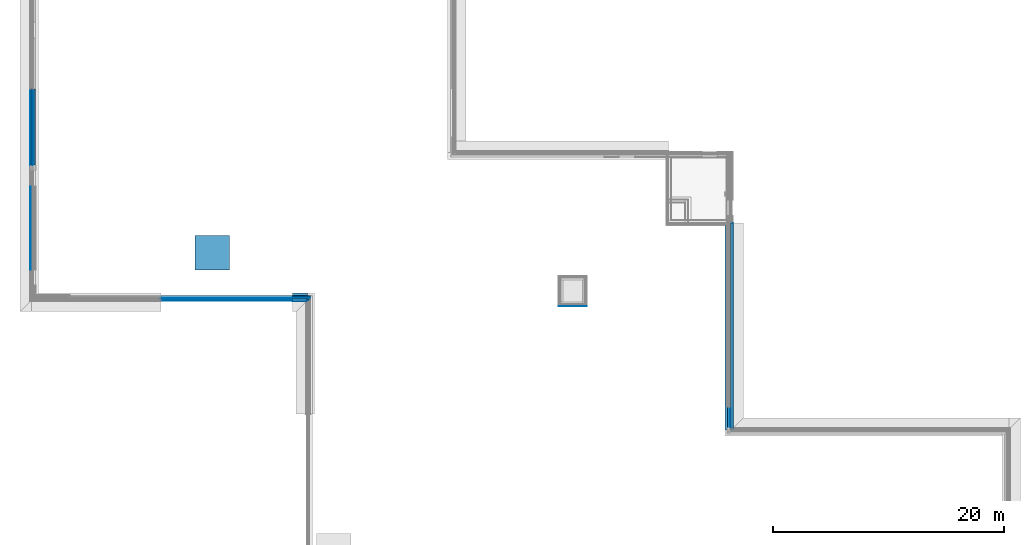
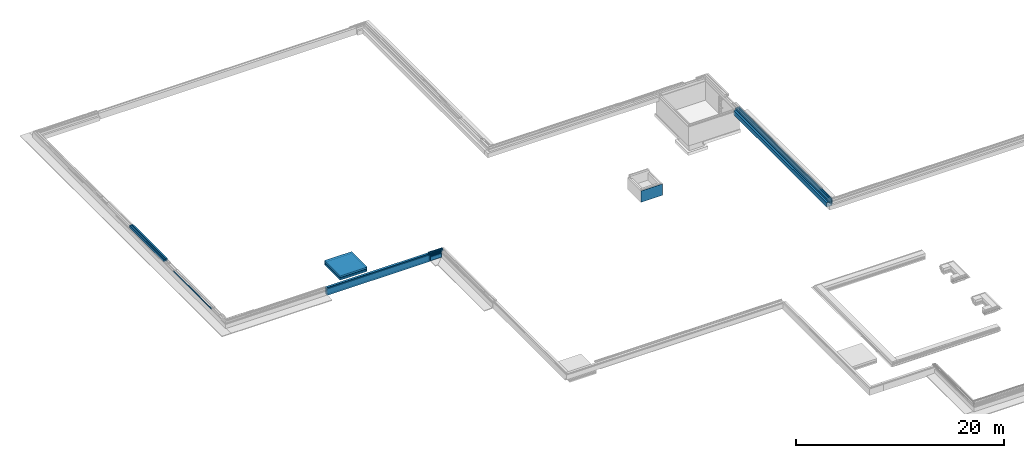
# One storey, part 5 of 17: 40 building element parts, 8 elements without a shape of their own.
"""IFC2X3 building model written with IfcOpenShell, lengths in millimetres."""

from ifc_helpers import new_model, entity, si_unit, converted_unit, derived_unit, money_unit, direction, frame, origin_with_axes, place, context, subcontext, project, spatial, faceted_brep, material, type_object, element, aggregate, save


model = new_model("IFC2X3")

# Units and contexts
model_context = context("Model", 3, precision=0.01, world=origin_with_axes(), true_north=direction((0.0, 1.0)))
body_context = subcontext(model_context, "Body", "Model", "MODEL_VIEW")
ifc_project = project(units=[si_unit("LENGTHUNIT", "METRE", prefix="MILLI"), si_unit("AREAUNIT", "SQUARE_METRE"), si_unit("VOLUMEUNIT", "CUBIC_METRE"), converted_unit("PLANEANGLEUNIT", "DEGREE", entity("IfcPlaneAngleMeasure", 0.0174532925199), si_unit("PLANEANGLEUNIT", "RADIAN"), dimensions=[0, 0, 0, 0, 0, 0, 0]), money_unit("EUR"), converted_unit("TIMEUNIT", "Year", entity("IfcTimeMeasure", 31556926.0), si_unit("TIMEUNIT", "SECOND"), dimensions=[0, 0, 1, 0, 0, 0, 0]), si_unit("MASSUNIT", "GRAM", prefix="KILO"), si_unit("THERMODYNAMICTEMPERATUREUNIT", "DEGREE_CELSIUS"), si_unit("LUMINOUSINTENSITYUNIT", "LUMEN"), si_unit("ENERGYUNIT", "JOULE", prefix="MEGA"), derived_unit("THERMALCONDUCTANCEUNIT", [(si_unit("POWERUNIT", "WATT"), 1), (si_unit("LENGTHUNIT", "METRE"), -1), (si_unit("THERMODYNAMICTEMPERATUREUNIT", "KELVIN"), -1)]), derived_unit("SPECIFICHEATCAPACITYUNIT", [(si_unit("ENERGYUNIT", "JOULE"), 1), (si_unit("MASSUNIT", "GRAM", prefix="KILO"), -1), (si_unit("THERMODYNAMICTEMPERATUREUNIT", "KELVIN"), -1)]), derived_unit("MASSDENSITYUNIT", [(si_unit("MASSUNIT", "GRAM", prefix="KILO"), 1), (si_unit("VOLUMEUNIT", "CUBIC_METRE"), -1)])], contexts=[model_context])

# Site, building, storey
site_placement = place(None, origin_with_axes())
site = spatial("IfcSite", under=ifc_project, at=site_placement, Name="Kolde pst 67a", CompositionType="ELEMENT")
building_placement = place(site_placement, origin_with_axes())
building = spatial("IfcBuilding", under=site, at=building_placement, Name="Riigigümnaasium", CompositionType="ELEMENT")
storey_placement = place(building_placement, frame((0.0, 0.0, -1500.0), z_axis=(0.0, 0.0, 1.0), x_axis=(1.0, 0.0, 0.0)))
storey = spatial("IfcBuildingStorey", under=building, at=storey_placement, Name="Vundament", CompositionType="ELEMENT", Elevation=-1500.0)

# Wall, building element part
wall_type_1 = type_object("IfcWallType", Name="VS-RB-20/3_lintvundament 363", PredefinedType="NOTDEFINED")
wall_1_placement = place(storey_placement, frame((47874.9854607, 47469.9999599, -135.3), z_axis=(0.0, 0.0, 1.0), x_axis=(-1.0, 0.0, 0.0)))
wall_1 = element("IfcWall", 1, at=wall_1_placement, inside=storey, type_object=wall_type_1, Name="Liftišaht")
ifc_material_1 = material(Name="_ALUSKATE - drenaaži- ja kaitsematt geotekstiiliga soojustuse kaitseks, Interplast Iso-Drain 8 Geo või samaväärne")
building_element_part_1_placement = place(wall_1_placement, origin_with_axes())
building_element_part_1 = element("IfcBuildingElementPart", 2, at=building_element_part_1_placement, material=ifc_material_1, Name="_ALUSKATE - drenaaži- ja kaitsematt geotekstiiliga soojustuse kaitseks, Interplast Iso-Drain 8 Geo või samaväärne", context=body_context, shape_type="Brep", body=[
    faceted_brep([(2263.0, 163.0, 1335.1), (-153.0, 163.0, 1335.1), (-153.0, 153.0, 1335.1), (2263.0, 153.0, 1335.1), (2263.0, 163.0, 0.0), (-153.0, 163.0, 0.0), (-153.0, 153.0, 0.0), (2263.0, 153.0, 0.0)], [[[0, 1, 2, 3]], [[4, 5, 1, 0]], [[2, 1, 5, 6]], [[3, 2, 6, 7]], [[3, 7, 4, 0]], [[7, 6, 5, 4]]]),
])
aggregate(wall_1, [building_element_part_1])

# Slab, building element parts
slab_type = type_object("IfcSlabType", Name="PP-RBM-20/1_EPS 100+ betoon, mullakast 500", PredefinedType="NOTDEFINED")
slab_placement = place(storey_placement, frame((14062.000519, 50431.9876282, 390.0), z_axis=(0.0, 0.0, 1.0), x_axis=(1.0, 0.0, 0.0)))
slab = element("IfcSlab", 3, at=slab_placement, inside=storey, type_object=slab_type, Name="Taimekast", PredefinedType="NOTDEFINED")
ifc_material_2 = material(Name="_PEALEVALUKIHT - raudbetoonplaat vastavalt EK osale, kalle trapi suunas 1:80")
building_element_part_2_placement = place(slab_placement, origin_with_axes())
building_element_part_2 = element("IfcBuildingElementPart", 4, at=building_element_part_2_placement, material=ifc_material_2, Name="_PEALEVALUKIHT - raudbetoonplaat vastavalt EK osale, kalle trapi suunas 1:80", context=body_context, shape_type="Brep", body=[
    faceted_brep([(3006.0, 0.0, -200.0), (3006.0, 0.0, 0.0), (0.0, 0.0, 0.0), (0.0, 0.0, -200.0), (3006.0, 3006.0, -200.0), (3006.0, 3006.0, 0.0), (0.0, 3006.0, 0.0), (0.0, 3006.0, -200.0)], [[[0, 1, 2, 3]], [[4, 5, 1, 0]], [[2, 1, 5, 6]], [[3, 2, 6, 7]], [[3, 7, 4, 0]], [[7, 6, 5, 4]]]),
])
ifc_material_3 = material(Name="_HÜDROISOLATSIOON/RADOONITÕKE - eelpaigaldatav elastne hüdroisolatsioonimembraan, värske betooniga nakkuv, radoonitihe, WFP Pre-Tec Membrane Plus või samaväärne")
building_element_part_3_placement = place(slab_placement, origin_with_axes())
building_element_part_3 = element("IfcBuildingElementPart", 5, at=building_element_part_3_placement, material=ifc_material_3, Name="_HÜDROISOLATSIOON/RADOONITÕKE - eelpaigaldatav elastne hüdroisolatsioonimembraan, värske betooniga nakkuv, radoonitihe, WFP Pre-Tec Membrane Plus või samaväärne", context=body_context, shape_type="Brep", body=[
    faceted_brep([(3006.0, 0.0, -200.1), (3006.0, 0.0, -200.0), (0.0, 0.0, -200.0), (0.0, 0.0, -200.1), (3006.0, 3006.0, -200.1), (3006.0, 3006.0, -200.0), (0.0, 3006.0, -200.0), (0.0, 3006.0, -200.1)], [[[0, 1, 2, 3]], [[4, 5, 1, 0]], [[2, 1, 5, 6]], [[3, 2, 6, 7]], [[3, 7, 4, 0]], [[7, 6, 5, 4]]]),
])
ifc_material_4 = material(Name="_SOOJUSTUS - vahtpolüstüreenplaadid EPS 120 Perimeeter, survetugevus min 120kPa, veeimavus <2%, soojuserijuhtivus λD<0,036 W/(mK)")
building_element_part_4_placement = place(slab_placement, origin_with_axes())
building_element_part_4 = element("IfcBuildingElementPart", 6, at=building_element_part_4_placement, material=ifc_material_4, Name="_SOOJUSTUS - vahtpolüstüreenplaadid EPS 120 Perimeeter, survetugevus min 120kPa, veeimavus <2%, soojuserijuhtivus λD<0,036 W/(mK)", context=body_context, shape_type="Brep", body=[
    faceted_brep([(3006.0, 0.0, -300.1), (3006.0, 0.0, -200.1), (0.0, 0.0, -200.1), (0.0, 0.0, -300.1), (3006.0, 3006.0, -300.1), (3006.0, 3006.0, -200.1), (0.0, 3006.0, -200.1), (0.0, 3006.0, -300.1)], [[[0, 1, 2, 3]], [[4, 5, 1, 0]], [[2, 1, 5, 6]], [[3, 2, 6, 7]], [[3, 7, 4, 0]], [[7, 6, 5, 4]]]),
])
ifc_material_5 = material(Name="_TÄIDE - tasandus-/tugevduskiht, pinnasesse tambitud killustik E=80MPa, kiilutud fr 4/16")
building_element_part_5_placement = place(slab_placement, origin_with_axes())
building_element_part_5 = element("IfcBuildingElementPart", 7, at=building_element_part_5_placement, material=ifc_material_5, Name="_TÄIDE - tasandus-/tugevduskiht, pinnasesse tambitud killustik E=80MPa, kiilutud fr 4/16", context=body_context, shape_type="Brep", body=[
    faceted_brep([(3006.0, 0.0, -350.1), (3006.0, 0.0, -300.1), (0.0, 0.0, -300.1), (0.0, 0.0, -350.1), (3006.0, 3006.0, -350.1), (3006.0, 3006.0, -300.1), (0.0, 3006.0, -300.1), (0.0, 3006.0, -350.1)], [[[0, 1, 2, 3]], [[4, 5, 1, 0]], [[2, 1, 5, 6]], [[3, 2, 6, 7]], [[3, 7, 4, 0]], [[7, 6, 5, 4]]]),
])
ifc_material_6 = material(Name="_TÄIDE - tasandus-/tugevduskiht, pinnasesse tambitud killustik E=80MPa, fr 16/32")
building_element_part_6_placement = place(slab_placement, origin_with_axes())
building_element_part_6 = element("IfcBuildingElementPart", 8, at=building_element_part_6_placement, material=ifc_material_6, Name="_TÄIDE - tasandus-/tugevduskiht, pinnasesse tambitud killustik E=80MPa, fr 16/32", context=body_context, shape_type="Brep", body=[
    faceted_brep([(3006.0, 0.0, -500.1), (3006.0, 0.0, -350.1), (0.0, 0.0, -350.1), (0.0, 0.0, -500.1), (3006.0, 3006.0, -500.1), (3006.0, 3006.0, -350.1), (0.0, 3006.0, -350.1), (0.0, 3006.0, -500.1)], [[[0, 1, 2, 3]], [[4, 5, 1, 0]], [[2, 1, 5, 6]], [[3, 2, 6, 7]], [[3, 7, 4, 0]], [[7, 6, 5, 4]]]),
])
ifc_material_7 = material(Name="_PINNAS - tihendatud mineraalne tagasitäide või olemasolev pinnas, tihendusaste 92%, Emax/E1 <2.8 (vastavalt MaaRYL2010 klassile 2)")
building_element_part_7_placement = place(slab_placement, origin_with_axes())
building_element_part_7 = element("IfcBuildingElementPart", 9, at=building_element_part_7_placement, material=ifc_material_7, Name="_PINNAS - tihendatud mineraalne tagasitäide või olemasolev pinnas, tihendusaste 92%, Emax/E1 <2.8 (vastavalt MaaRYL2010 klassile 2)", context=body_context, shape_type="Brep", body=[
    faceted_brep([(0.0, 0.0, -500.2), (3006.0, 0.0, -500.2), (3006.0, 0.0, -500.1), (0.0, 0.0, -500.1), (0.0, 3006.0, -500.2), (3006.0, 3006.0, -500.2), (3006.0, 3006.0, -500.1), (0.0, 3006.0, -500.1)], [[[0, 1, 2, 3]], [[0, 4, 5, 1]], [[1, 5, 6, 2]], [[3, 2, 6, 7]], [[4, 0, 3, 7]], [[5, 4, 7, 6]]]),
])
aggregate(slab, [building_element_part_2, building_element_part_3, building_element_part_4, building_element_part_5, building_element_part_6, building_element_part_7])

# Wall, building element parts
wall_type_2 = type_object("IfcWallType", Name="Lintvundament 1602 x 765", PredefinedType="NOTDEFINED")
wall_2_placement = place(storey_placement, frame((60439.9941222, 36439.9996998, 1479.99999851), z_axis=(0.0, 0.0, 1.0), x_axis=(0.0, 1.0, 0.0)))
wall_2 = element("IfcWall", 10, at=wall_2_placement, inside=storey, type_object=wall_type_2, Name="Vundament")
ifc_material_8 = material(Name="_KANDETARIND - monoliitne raudbetoon vastavalt EK osale")
building_element_part_8_placement = place(wall_2_placement, origin_with_axes())
building_element_part_8 = element("IfcBuildingElementPart", 11, at=building_element_part_8_placement, material=ifc_material_8, Name="_KANDETARIND - monoliitne raudbetoon vastavalt EK osale", context=body_context, shape_type="Brep", body=[
    faceted_brep([(0.0, 200.0, 0.0), (0.0, 0.0, 0.0), (18080.0003586, 0.0, 0.0), (18080.0003586, 200.0, 0.0), (0.0, 200.0, -250.0), (0.0, 0.0, -250.0), (200.057444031, 0.0, -250.0), (18080.0003586, 0.0, -250.0), (18080.0003586, -200.057444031, -250.0), (18080.0003586, -200.057444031, -750.0), (18080.0003586, 399.942555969, -750.0), (18080.0003586, 399.942555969, -250.0), (18080.0003586, 200.0, -250.0), (200.057444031, 200.0, -250.0), (200.057444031, -200.057444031, -250.0), (200.057444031, -200.057444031, -750.0), (200.057444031, 399.942555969, -750.0), (200.057444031, 399.942555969, -250.0)], [[[0, 1, 2, 3]], [[1, 0, 4, 5]], [[1, 5, 6, 7, 2]], [[8, 9, 10, 11, 12, 3, 2, 7]], [[0, 3, 12, 13, 4]], [[6, 5, 4, 13]], [[6, 14, 8, 7]], [[14, 15, 9, 8]], [[15, 16, 10, 9]], [[17, 11, 10, 16]], [[17, 13, 12, 11]], [[14, 6, 13, 17, 16, 15]]]),
])
ifc_material_9 = material(Name="_SOOJUSTUS - ekstrudeeritud polüstüreenist plaadid XPS 250, survetugevus min 250kPa, soojuserijuhtivus λD<0,036 W/(mK), veeimavus alla 0,2%, näiteks XPS 250 foam SL või samaväärne")
building_element_part_9_placement = place(wall_2_placement, origin_with_axes())
building_element_part_9 = element("IfcBuildingElementPart", 12, at=building_element_part_9_placement, material=ifc_material_9, Name="_SOOJUSTUS - ekstrudeeritud polüstüreenist plaadid XPS 250, survetugevus min 250kPa, soojuserijuhtivus λD<0,036 W/(mK), veeimavus alla 0,2%, näiteks XPS 250 foam SL või samaväärne", context=body_context, shape_type="Brep", body=[
    faceted_brep([(73.0000017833, -3.00000241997, -3.76120343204e-06), (73.0000017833, -73.0000017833, -3.76120343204e-06), (18080.0003586, -73.0000017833, -3.76120340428e-06), (18080.0003586, -3.00000241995, -3.7612034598e-06), (73.0000017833, -3.00000241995, -146.999999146), (73.0000017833, -73.0000017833, -146.999999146), (18080.0003586, -73.0000017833, -146.999999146), (18080.0003586, -3.00000241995, -146.999999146)], [[[0, 1, 2, 3]], [[1, 0, 4, 5]], [[1, 5, 6, 2]], [[7, 3, 2, 6]], [[0, 3, 7, 4]], [[4, 7, 6, 5]]]),
])
building_element_part_10_placement = place(wall_2_placement, origin_with_axes())
building_element_part_10 = element("IfcBuildingElementPart", 13, at=building_element_part_10_placement, material=ifc_material_4, Name="_SOOJUSTUS - vahtpolüstüreenplaadid EPS 120 Perimeeter, survetugevus min 120kPa, veeimavus <2%, soojuserijuhtivus λD<0,036 W/(mK)", context=body_context, shape_type="Brep", body=[
    faceted_brep([(223.000000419, -73.0000013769, -2.23078099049e-06), (223.000000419, -223.000000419, -2.23078099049e-06), (18080.0003586, -223.000000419, -2.23078100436e-06), (18080.0003586, -73.0000013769, -2.23078100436e-06), (223.000000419, -73.0000013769, -146.999999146), (223.000000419, -223.000000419, -146.999999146), (18080.0003586, -223.000000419, -146.999999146), (18080.0003586, -73.0000013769, -146.999999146)], [[[0, 1, 2, 3]], [[1, 0, 4, 5]], [[1, 5, 6, 2]], [[3, 2, 6, 7]], [[0, 3, 7, 4]], [[5, 4, 7, 6]]]),
])
building_element_part_11_placement = place(wall_2_placement, origin_with_axes())
building_element_part_11 = element("IfcBuildingElementPart", 14, at=building_element_part_11_placement, material=ifc_material_4, Name="_SOOJUSTUS - vahtpolüstüreenplaadid EPS 120 Perimeeter, survetugevus min 120kPa, veeimavus <2%, soojuserijuhtivus λD<0,036 W/(mK)", context=body_context, shape_type="Brep", body=[
    faceted_brep([(303.057446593, -3.00000241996, -146.99999851), (303.057446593, -303.057446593, -146.99999851), (18080.0003586, -303.057446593, -146.99999851), (18080.0003586, -3.00000241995, -146.99999851), (303.057446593, -303.057446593, -247.000001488), (303.057446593, -3.00000241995, -247.000001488), (18080.0003586, -303.057446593, -247.000001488), (18080.0003586, -3.00000241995, -247.000001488)], [[[0, 1, 2, 3]], [[4, 1, 0, 5]], [[1, 4, 6, 2]], [[6, 7, 3, 2]], [[5, 0, 3, 7]], [[4, 5, 7, 6]]]),
])
ifc_material_10 = material(Name="_HÜDROISOLATSIOON - Bituumenvõõp COMBIFLEX-EL vastavalt TL2 nõuetele")
building_element_part_12_placement = place(wall_2_placement, origin_with_axes())
building_element_part_12 = element("IfcBuildingElementPart", 15, at=building_element_part_12_placement, material=ifc_material_10, Name="_HÜDROISOLATSIOON - Bituumenvõõp COMBIFLEX-EL vastavalt TL2 nõuetele", context=body_context, shape_type="Brep", body=[
    faceted_brep([(2.99999783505, 0.0, -2.35946218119e-06), (2.99999783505, -2.99999783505, -2.35946218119e-06), (18080.0003586, -2.99999783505, -2.35946218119e-06), (18080.0003586, 0.0, 8.81641959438e-06), (2.99999653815, 0.0, -246.999998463), (2.99999653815, -2.99999783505, -246.999998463), (203.057435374, -2.99999783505, -246.999999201), (18080.0003586, -2.99999783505, -246.999999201), (18080.0003586, 0.0, -250.000008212), (18080.0003586, -203.057435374, -246.999999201), (18080.0003586, -203.057435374, -729.999997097), (18080.0003586, -203.057435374, -750.000008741), (18080.0003586, -200.057437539, -750.000008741), (18080.0003586, -200.057437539, -250.000008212), (203.057435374, 0.0, -250.000000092), (203.057435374, 0.0, -246.999999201), (203.057435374, -203.057435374, -246.999999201), (203.057435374, -203.057435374, -729.999997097), (203.057435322, -203.057435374, -750.000008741), (203.057435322, -200.057437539, -750.000008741), (203.057435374, -200.057437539, -729.999997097), (203.057435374, -200.057437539, -250.000000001)], [[[0, 1, 2, 3]], [[1, 0, 4, 5]], [[1, 5, 6, 7, 2]], [[8, 3, 2, 7, 9, 10, 11, 12, 13]], [[0, 3, 8, 14, 15, 4]], [[5, 4, 15, 6]], [[9, 7, 6, 16]], [[10, 9, 16, 17]], [[11, 10, 17, 18]], [[12, 11, 18, 19]], [[20, 21, 13, 12, 19]], [[8, 13, 21, 14]], [[6, 15, 14, 21, 20, 17, 16]], [[17, 20, 19, 18]]]),
])
ifc_material_11 = material(Name="_TUULETÕKE - sokli krohv, silikoonvaikkrohv Weber.pas 481 AquaBalance 1mm \"scratch\" viimistlus, toon helehall CL444 (S 3502-Y) * 35, SILS süsteem, või samaväärne")
building_element_part_13_placement = place(wall_2_placement, origin_with_axes())
building_element_part_13 = element("IfcBuildingElementPart", 16, at=building_element_part_13_placement, material=ifc_material_11, Name="_TUULETÕKE - sokli krohv, silikoonvaikkrohv Weber.pas 481 AquaBalance 1mm \"scratch\" viimistlus, toon helehall CL444 (S 3502-Y) * 35, SILS süsteem, või samaväärne", context=body_context, shape_type="Brep", body=[
    faceted_brep([(233.000001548, -223.000001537, -1.37334278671e-06), (233.000001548, -233.000001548, -1.37334278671e-06), (18080.0003586, -233.000001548, -1.37334277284e-06), (18080.0003586, -223.000001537, -1.37334277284e-06), (233.000002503, -233.000002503, -30.0000036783), (233.000002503, -223.000001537, -30.0000036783), (18080.0003586, -233.000002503, -30.0000036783), (18080.0003586, -233.000001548, -146.999999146), (18080.0003586, -223.000001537, -146.999999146), (233.000001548, -223.000001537, -146.999999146), (233.000001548, -233.000001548, -146.999999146)], [[[0, 1, 2, 3]], [[4, 1, 0, 5]], [[1, 4, 6, 2]], [[6, 7, 8, 3, 2]], [[5, 0, 3, 8, 9]], [[4, 5, 9, 10]], [[6, 4, 10, 7]], [[7, 10, 9, 8]]]),
])
ifc_material_12 = material(Name="_HÜDROISOLATSIOON - tsemendil baseeruv ühekomponentne hüdroisolatsioon hüdroisoleerimiseks sokli krohvi pealt, ülevärvitud silikoonvaikvärviga sokli krohvi tooni, Weber.tec 824 ja Weber.ton 411 AquaBalance toon CL444 (S 3502-Y) * 35 või samaväärne")
building_element_part_14_placement = place(wall_2_placement, origin_with_axes())
building_element_part_14 = element("IfcBuildingElementPart", 17, at=building_element_part_14_placement, material=ifc_material_12, Name="_HÜDROISOLATSIOON - tsemendil baseeruv ühekomponentne hüdroisolatsioon hüdroisoleerimiseks sokli krohvi pealt, ülevärvitud silikoonvaikvärviga sokli krohvi tooni, Weber.tec 824 ja Weber.ton 411 AquaBalance toon CL444 (S 3502-Y) * 35 või samaväärne", context=body_context, shape_type="Brep", body=[
    faceted_brep([(234.99999634, -233.000002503, -29.9999946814), (234.99999634, -234.99999634, -29.9999946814), (18080.0003586, -234.99999634, -29.9999946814), (18080.0003586, -233.000002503, -30.0000036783), (234.99999634, -234.99999634, -146.999993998), (234.99999634, -233.000002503, -146.999993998), (18080.0003586, -234.99999634, -146.999993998), (18080.0003586, -233.000002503, -147.000002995)], [[[0, 1, 2, 3]], [[4, 1, 0, 5]], [[1, 4, 6, 2]], [[7, 3, 2, 6]], [[5, 0, 3, 7]], [[4, 5, 7, 6]]]),
])
building_element_part_15_placement = place(wall_2_placement, origin_with_axes())
building_element_part_15 = element("IfcBuildingElementPart", 18, at=building_element_part_15_placement, material=ifc_material_4, Name="_SOOJUSTUS - vahtpolüstüreenplaadid EPS 120 Perimeeter, survetugevus min 120kPa, veeimavus <2%, soojuserijuhtivus λD<0,036 W/(mK)", context=body_context, shape_type="Brep", body=[
    faceted_brep([(303.057446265, -203.057444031, -246.99999851), (303.057446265, -303.057446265, -246.99999851), (18080.0003586, -303.057446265, -246.99999851), (18080.0003586, -203.057444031, -246.99999851), (303.057446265, -203.057444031, -629.93015656), (303.057446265, -303.057446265, -633.422240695), (18080.0003586, -303.057446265, -633.422240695), (18080.0003586, -203.057444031, -629.930162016)], [[[0, 1, 2, 3]], [[1, 0, 4, 5]], [[1, 5, 6, 2]], [[6, 7, 3, 2]], [[4, 0, 3, 7]], [[5, 4, 7, 6]]]),
])
aggregate(wall_2, [building_element_part_8, building_element_part_9, building_element_part_10, building_element_part_11, building_element_part_12, building_element_part_13, building_element_part_14, building_element_part_15])

wall_type_3 = type_object("IfcWallType", Name="VS-CLT-16/3_sokkel võimla 393", PredefinedType="NOTDEFINED")
wall_3_placement = place(storey_placement, frame((40.0567843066, 66179.7230475, 1480.0), z_axis=(0.0, 0.0, 1.0), x_axis=(0.0, -1.0, 0.0)))
wall_3 = element("IfcWall", 19, at=wall_3_placement, inside=storey, type_object=wall_type_3, Name="Sokkel")
ifc_material_13 = material(Name="_KANDETARIND - CLT ristkihtliimpuit vastavalt EK osale, CLT paigaldusvuugid teibitakse ROTHOBLAAS teibiga")
building_element_part_16_placement = place(wall_3_placement, origin_with_axes())
building_element_part_16 = element("IfcBuildingElementPart", 20, at=building_element_part_16_placement, material=ifc_material_13, Name="_KANDETARIND - CLT ristkihtliimpuit vastavalt EK osale, CLT paigaldusvuugid teibitakse ROTHOBLAAS teibiga", context=body_context, shape_type="Brep", body=[
    faceted_brep([(6629.72508976, 160.0, 0.0), (6629.72508976, 0.0, 0.0), (0.0, 0.0, 0.0), (0.0, 160.0, 0.0), (6629.72508976, 160.0, 300.0), (6629.72508976, 0.0, 300.0), (0.0, 0.0, 300.0), (0.0, 160.0, 300.0)], [[[0, 1, 2, 3]], [[0, 4, 5, 1]], [[1, 5, 6, 2]], [[3, 2, 6, 7]], [[4, 0, 3, 7]], [[5, 4, 7, 6]]]),
])
ifc_material_14 = material(Name="_HÜDROISOLATSIOON - 3x SBS rullmaterjal vastavalt TL2 nõuetele, nakke tugevduseks betoonpind eelnevalt katta hüdroisolatsiooni bituumenvõõbaga")
building_element_part_17_placement = place(wall_3_placement, origin_with_axes())
building_element_part_17 = element("IfcBuildingElementPart", 21, at=building_element_part_17_placement, material=ifc_material_14, Name="_HÜDROISOLATSIOON - 3x SBS rullmaterjal vastavalt TL2 nõuetele, nakke tugevduseks betoonpind eelnevalt katta hüdroisolatsiooni bituumenvõõbaga", context=body_context, shape_type="Brep", body=[
    faceted_brep([(6629.72508976, 0.0, 0.0), (6629.72508976, -3.0, 0.0), (0.0, -3.0, 0.0), (0.0, 0.0, 0.0), (6629.72508976, 0.0, 300.0), (6629.72508976, -3.0, 300.0), (0.0, -3.0, 300.0), (0.0, 0.0, 300.0)], [[[0, 1, 2, 3]], [[0, 4, 5, 1]], [[1, 5, 6, 2]], [[3, 2, 6, 7]], [[4, 0, 3, 7]], [[5, 4, 7, 6]]]),
])
ifc_material_15 = material(Name="_SOOJUSTUS - ekstrudeeritud polüstüreenist plaadid XPS 250, soojuserijuhtivus lambdaD=0,035 W/mK, veeimavus alla 2%, näiteks Styrofoam 250 SL-A-N  või samaväärne, plaatide vuugid omavahel nihutada")
building_element_part_18_placement = place(wall_3_placement, origin_with_axes())
building_element_part_18 = element("IfcBuildingElementPart", 22, at=building_element_part_18_placement, material=ifc_material_15, Name="_SOOJUSTUS - ekstrudeeritud polüstüreenist plaadid XPS 250, soojuserijuhtivus lambdaD=0,035 W/mK, veeimavus alla 2%, näiteks Styrofoam 250 SL-A-N  või samaväärne, plaatide vuugid omavahel nihutada", context=body_context, shape_type="Brep", body=[
    faceted_brep([(6629.72508976, -3.0, 0.0), (6629.72508976, -73.0, 0.0), (0.0, -73.0, 0.0), (0.0, -3.0, 0.0), (6629.72508976, -3.0, 300.0), (6629.72508976, -73.0, 300.0), (0.0, -73.0, 300.0), (0.0, -3.0, 300.0)], [[[0, 1, 2, 3]], [[0, 4, 5, 1]], [[1, 5, 6, 2]], [[3, 2, 6, 7]], [[4, 0, 3, 7]], [[5, 4, 7, 6]]]),
])
building_element_part_19_placement = place(wall_3_placement, origin_with_axes())
building_element_part_19 = element("IfcBuildingElementPart", 23, at=building_element_part_19_placement, material=ifc_material_4, Name="_SOOJUSTUS - vahtpolüstüreenplaadid EPS 120 Perimeeter, survetugevus min 120kPa, veeimavus <2%, soojuserijuhtivus λD<0,036 W/(mK)", context=body_context, shape_type="Brep", body=[
    faceted_brep([(6629.72508976, -73.0, 0.0), (6629.72508976, -223.0, 0.0), (0.0, -223.0, 0.0), (0.0, -73.0, 0.0), (6629.72508976, -73.0, 300.0), (6629.72508976, -223.0, 300.0), (0.0, -223.0, 300.0), (0.0, -73.0, 300.0)], [[[0, 1, 2, 3]], [[0, 4, 5, 1]], [[1, 5, 6, 2]], [[3, 2, 6, 7]], [[4, 0, 3, 7]], [[5, 4, 7, 6]]]),
])
building_element_part_20_placement = place(wall_3_placement, origin_with_axes())
building_element_part_20 = element("IfcBuildingElementPart", 24, at=building_element_part_20_placement, material=ifc_material_11, Name="_TUULETÕKE - sokli krohv, silikoonvaikkrohv Weber.pas 481 AquaBalance 1mm \"scratch\" viimistlus, toon helehall CL444 (S 3502-Y) * 35, SILS süsteem, või samaväärne", context=body_context, shape_type="Brep", body=[
    faceted_brep([(6629.72508976, -223.0, 0.0), (6629.72508976, -233.0, 0.0), (0.0, -233.0, 0.0), (0.0, -223.0, 0.0), (6629.72508976, -223.0, 300.0), (6629.72508976, -233.0, 300.0), (0.0, -233.0, 300.0), (0.0, -223.0, 300.0)], [[[0, 1, 2, 3]], [[0, 4, 5, 1]], [[1, 5, 6, 2]], [[3, 2, 6, 7]], [[4, 0, 3, 7]], [[5, 4, 7, 6]]]),
])
aggregate(wall_3, [building_element_part_16, building_element_part_17, building_element_part_18, building_element_part_19, building_element_part_20])

# Wall, building element part
wall_type_4 = type_object("IfcWallType", Name="VS-RB-20/2_sokkel  443", PredefinedType="NOTDEFINED")
wall_4_placement = place(storey_placement, frame((40.0568180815, 57672.0053224, 1480.0), z_axis=(0.0, 0.0, 1.0), x_axis=(0.0, -1.0, 0.0)))
wall_4 = element("IfcWall", 25, at=wall_4_placement, inside=storey, type_object=wall_type_4, Name="Sokkel")
building_element_part_21_placement = place(wall_4_placement, origin_with_axes())
building_element_part_21 = element("IfcBuildingElementPart", 26, at=building_element_part_21_placement, material=ifc_material_11, Name="_TUULETÕKE - sokli krohv, silikoonvaikkrohv Weber.pas 481 AquaBalance 1mm \"scratch\" viimistlus, toon helehall CL444 (S 3502-Y) * 35, SILS süsteem, või samaväärne", context=body_context, shape_type="Brep", body=[
    faceted_brep([(7190.71404711, -223.0, 0.0), (7190.71404711, -233.0, 0.0), (0.0, -233.0, 0.0), (0.0, -223.0, 0.0), (7190.71404711, -223.0, 120.0), (7190.71404711, -233.0, 120.0), (0.0, -233.0, 120.0), (0.0, -223.0, 120.0)], [[[0, 1, 2, 3]], [[0, 4, 5, 1]], [[1, 5, 6, 2]], [[3, 2, 6, 7]], [[4, 0, 3, 7]], [[5, 4, 7, 6]]]),
])
aggregate(wall_4, [building_element_part_21])

# Wall, building element parts
wall_5_placement = place(storey_placement, frame((22528.6213592, 48039.7660528, 1480.0), z_axis=(0.0, 0.0, 1.0), x_axis=(0.999999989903, 0.000142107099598, 0.0)))
wall_5 = element("IfcWall", 27, at=wall_5_placement, inside=storey, type_object=wall_type_3, Name="Sokkel")
building_element_part_22_placement = place(wall_5_placement, origin_with_axes())
building_element_part_22 = element("IfcBuildingElementPart", 28, at=building_element_part_22_placement, material=ifc_material_13, Name="_KANDETARIND - CLT ristkihtliimpuit vastavalt EK osale, CLT paigaldusvuugid teibitakse ROTHOBLAAS teibiga", context=body_context, shape_type="Brep", body=[
    faceted_brep([(1511.38139022, 0.0, 0.0), (0.0, 0.0, 0.0), (0.0, 160.0, 0.0), (1511.40412849, 160.0, 0.0), (1511.38139022, 0.0, 120.0), (0.0, 0.0, 120.0), (0.0, 160.0, 120.0), (1511.40412849, 160.0, 120.0)], [[[0, 1, 2, 3]], [[4, 5, 1, 0]], [[2, 1, 5, 6]], [[3, 2, 6, 7]], [[3, 7, 4, 0]], [[7, 6, 5, 4]]]),
])
building_element_part_23_placement = place(wall_5_placement, origin_with_axes())
building_element_part_23 = element("IfcBuildingElementPart", 29, at=building_element_part_23_placement, material=ifc_material_14, Name="_HÜDROISOLATSIOON - 3x SBS rullmaterjal vastavalt TL2 nõuetele, nakke tugevduseks betoonpind eelnevalt katta hüdroisolatsiooni bituumenvõõbaga", context=body_context, shape_type="Brep", body=[
    faceted_brep([(1511.38096388, -3.0, 0.0), (0.0, -3.00000000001, 0.0), (0.0, 0.0, 0.0), (1511.38139022, 0.0, 0.0), (1511.38096388, -3.0, 120.0), (0.0, -3.00000000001, 120.0), (0.0, 0.0, 120.0), (1511.38139022, 0.0, 120.0)], [[[0, 1, 2, 3]], [[4, 5, 1, 0]], [[2, 1, 5, 6]], [[3, 2, 6, 7]], [[3, 7, 4, 0]], [[7, 6, 5, 4]]]),
])
building_element_part_24_placement = place(wall_5_placement, origin_with_axes())
building_element_part_24 = element("IfcBuildingElementPart", 30, at=building_element_part_24_placement, material=ifc_material_15, Name="_SOOJUSTUS - ekstrudeeritud polüstüreenist plaadid XPS 250, soojuserijuhtivus lambdaD=0,035 W/mK, veeimavus alla 2%, näiteks Styrofoam 250 SL-A-N  või samaväärne, plaatide vuugid omavahel nihutada", context=body_context, shape_type="Brep", body=[
    faceted_brep([(1508.37101585, -73.0, 0.0), (0.0, -73.0, 0.0), (0.0, -3.00000000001, 0.0), (1508.38096385, -3.0, 0.0), (1508.37101585, -73.0, 120.0), (0.0, -73.0, 120.0), (0.0, -3.00000000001, 120.0), (1508.38096385, -3.0, 120.0)], [[[0, 1, 2, 3]], [[4, 5, 1, 0]], [[2, 1, 5, 6]], [[3, 2, 6, 7]], [[3, 7, 4, 0]], [[7, 6, 5, 4]]]),
])
building_element_part_25_placement = place(wall_5_placement, origin_with_axes())
building_element_part_25 = element("IfcBuildingElementPart", 31, at=building_element_part_25_placement, material=ifc_material_4, Name="_SOOJUSTUS - vahtpolüstüreenplaadid EPS 120 Perimeeter, survetugevus min 120kPa, veeimavus <2%, soojuserijuhtivus λD<0,036 W/(mK)", context=body_context, shape_type="Brep", body=[
    faceted_brep([(1438.34969802, -223.0, 0.0), (0.0, -223.0, 0.0), (0.0, -73.0, 0.0), (1438.37101515, -73.0, 0.0), (1438.34969802, -223.0, 120.0), (0.0, -223.0, 120.0), (0.0, -73.0, 120.0), (1438.37101515, -73.0, 120.0)], [[[0, 1, 2, 3]], [[4, 5, 1, 0]], [[2, 1, 5, 6]], [[3, 2, 6, 7]], [[3, 7, 4, 0]], [[7, 6, 5, 4]]]),
])
building_element_part_26_placement = place(wall_5_placement, origin_with_axes())
building_element_part_26 = element("IfcBuildingElementPart", 32, at=building_element_part_26_placement, material=ifc_material_11, Name="_TUULETÕKE - sokli krohv, silikoonvaikkrohv Weber.pas 481 AquaBalance 1mm \"scratch\" viimistlus, toon helehall CL444 (S 3502-Y) * 35, SILS süsteem, või samaväärne", context=body_context, shape_type="Brep", body=[
    faceted_brep([(1288.34827536, -233.0, 0.0), (0.0, -233.0, 0.0), (0.0, -223.0, 0.0), (1288.34969651, -223.0, 0.0), (1288.34827536, -233.0, 120.0), (0.0, -233.0, 120.0), (0.0, -223.0, 120.0), (1288.34969651, -223.0, 120.0)], [[[0, 1, 2, 3]], [[4, 5, 1, 0]], [[2, 1, 5, 6]], [[3, 2, 6, 7]], [[3, 7, 4, 0]], [[7, 6, 5, 4]]]),
])
aggregate(wall_5, [building_element_part_22, building_element_part_23, building_element_part_24, building_element_part_25, building_element_part_26])

wall_type_5 = type_object("IfcWallType", Name="VS-RB-25/3_lintvundament klaasfassaad 433", PredefinedType="NOTDEFINED")
wall_6_placement = place(storey_placement, frame((11108.5949525, 47806.9808308, 729.999997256), z_axis=(0.0, 0.0, 1.0), x_axis=(1.0, 0.0, 0.0)))
wall_6 = element("IfcWall", 33, at=wall_6_placement, inside=storey, type_object=wall_type_5, Name="Vundament")
building_element_part_27_placement = place(wall_6_placement, origin_with_axes())
building_element_part_27 = element("IfcBuildingElementPart", 34, at=building_element_part_27_placement, material=ifc_material_8, Name="_KANDETARIND - monoliitne raudbetoon vastavalt EK osale", context=body_context, shape_type="Brep", body=[
    faceted_brep([(11420.0264083, 433.000000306, 0.0), (11420.0264084, 183.000000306, 0.0), (-4.91162666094e-09, 183.0, 0.0), (-1.16209264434e-08, 433.0, 0.0), (11420.0264083, 433.000000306, 770.000002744), (11420.0264084, 183.000000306, 770.000002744), (-4.91162666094e-09, 183.0, 770.000002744), (-1.16209264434e-08, 433.0, 770.000002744)], [[[0, 1, 2, 3]], [[0, 4, 5, 1]], [[1, 5, 6, 2]], [[3, 2, 6, 7]], [[4, 0, 3, 7]], [[5, 4, 7, 6]]]),
])
building_element_part_28_placement = place(wall_6_placement, origin_with_axes())
building_element_part_28 = element("IfcBuildingElementPart", 35, at=building_element_part_28_placement, material=ifc_material_10, Name="_HÜDROISOLATSIOON - Bituumenvõõp COMBIFLEX-EL vastavalt TL2 nõuetele", context=body_context, shape_type="Brep", body=[
    faceted_brep([(11420.0264084, 183.000000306, 0.0), (11420.0264084, 180.000000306, 0.0), (-4.83169060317e-09, 180.0, 0.0), (-4.91162666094e-09, 183.0, 0.0), (11420.0264084, 183.000000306, 770.000002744), (11420.0264084, 180.000000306, 770.000002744), (-4.83169060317e-09, 180.0, 770.000002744), (-4.91162666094e-09, 183.0, 770.000002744)], [[[0, 1, 2, 3]], [[0, 4, 5, 1]], [[1, 5, 6, 2]], [[3, 2, 6, 7]], [[4, 0, 3, 7]], [[5, 4, 7, 6]]]),
])
building_element_part_29_placement = place(wall_6_placement, origin_with_axes())
building_element_part_29 = element("IfcBuildingElementPart", 36, at=building_element_part_29_placement, material=ifc_material_9, Name="_SOOJUSTUS - ekstrudeeritud polüstüreenist plaadid XPS 250, survetugevus min 250kPa, soojuserijuhtivus λD<0,036 W/(mK), veeimavus alla 0,2%, näiteks XPS 250 foam SL või samaväärne", context=body_context, shape_type="Brep", body=[
    faceted_brep([(11420.0264084, 180.000000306, 0.0), (11420.0264084, 110.000000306, 0.0), (-2.95230506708e-09, 110.0, 0.0), (-4.83169060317e-09, 180.0, 0.0), (11420.0264084, 180.000000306, 770.000002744), (11420.0264084, 110.000000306, 770.000002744), (-2.95230506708e-09, 110.0, 770.000002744), (-4.83169060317e-09, 180.0, 770.000002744)], [[[0, 1, 2, 3]], [[0, 4, 5, 1]], [[1, 5, 6, 2]], [[3, 2, 6, 7]], [[4, 0, 3, 7]], [[5, 4, 7, 6]]]),
])
building_element_part_30_placement = place(wall_6_placement, origin_with_axes())
building_element_part_30 = element("IfcBuildingElementPart", 37, at=building_element_part_30_placement, material=ifc_material_4, Name="_SOOJUSTUS - vahtpolüstüreenplaadid EPS 120 Perimeeter, survetugevus min 120kPa, veeimavus <2%, soojuserijuhtivus λD<0,036 W/(mK)", context=body_context, shape_type="Brep", body=[
    faceted_brep([(11420.0264084, 110.000000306, 0.0), (11420.0264084, 10.0000003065, 0.0), (-2.68229882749e-10, 10.0, 0.0), (-2.95230506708e-09, 110.0, 0.0), (11420.0264084, 110.000000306, 770.000002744), (11420.0264084, 10.0000003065, 770.000002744), (-2.68229882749e-10, 10.0, 770.000002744), (-2.95230506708e-09, 110.0, 770.000002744)], [[[0, 1, 2, 3]], [[0, 4, 5, 1]], [[1, 5, 6, 2]], [[3, 2, 6, 7]], [[4, 0, 3, 7]], [[5, 4, 7, 6]]]),
])
building_element_part_31_placement = place(wall_6_placement, origin_with_axes())
building_element_part_31 = element("IfcBuildingElementPart", 38, at=building_element_part_31_placement, material=ifc_material_11, Name="_TUULETÕKE - sokli krohv, silikoonvaikkrohv Weber.pas 481 AquaBalance 1mm \"scratch\" viimistlus, toon helehall CL444 (S 3502-Y) * 35, SILS süsteem, või samaväärne", context=body_context, shape_type="Brep", body=[
    faceted_brep([(11420.0264084, 10.0000003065, 0.0), (11420.0264084, 3.06485503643e-07, 0.0), (0.0, 0.0, 0.0), (-2.68229882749e-10, 10.0, 0.0), (11420.0264084, 10.0000003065, 770.000002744), (11420.0264084, 3.06485503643e-07, 770.000002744), (0.0, 0.0, 770.000002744), (-2.68229882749e-10, 10.0, 770.000002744)], [[[0, 1, 2, 3]], [[0, 4, 5, 1]], [[1, 5, 6, 2]], [[3, 2, 6, 7]], [[4, 0, 3, 7]], [[5, 4, 7, 6]]]),
])
aggregate(wall_6, [building_element_part_27, building_element_part_28, building_element_part_29, building_element_part_30, building_element_part_31])

wall_7_placement = place(storey_placement, frame((22528.6213609, 48039.9808309, 1479.99999851), z_axis=(0.0, 0.0, 1.0), x_axis=(1.0, 0.0, 0.0)))
wall_7 = element("IfcWall", 39, at=wall_7_placement, inside=storey, type_object=wall_type_2, Name="Vundament")
building_element_part_32_placement = place(wall_7_placement, origin_with_axes())
building_element_part_32 = element("IfcBuildingElementPart", 40, at=building_element_part_32_placement, material=ifc_material_8, Name="_KANDETARIND - monoliitne raudbetoon vastavalt EK osale", context=body_context, shape_type="Brep", body=[
    faceted_brep([(1511.38137327, 8.36024582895e-08, 0.0), (1511.38137326, 200.000000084, 0.0), (-1.10631503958e-08, 200.0, 0.0), (0.0, 0.0, 0.0), (1511.38137327, 8.36024582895e-08, -250.0), (1511.38137326, 200.000000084, -250.0), (1311.32392923, 200.000000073, -250.0), (-1.10631503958e-08, 200.0, -250.0), (-2.21227480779e-08, 399.942555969, -250.0), (-2.21227480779e-08, 399.942555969, -750.0), (1.10667031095e-08, -200.057444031, -750.0), (1.10667031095e-08, -200.057444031, -250.0), (0.0, 0.0, -250.0), (1311.32392924, 7.25322024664e-08, -250.0), (1311.32392922, 399.942556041, -250.0), (1311.32392922, 399.942556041, -750.0), (1311.32392925, -200.057443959, -750.0), (1311.32392925, -200.057443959, -250.0)], [[[0, 1, 2, 3]], [[1, 0, 4, 5]], [[1, 5, 6, 7, 2]], [[7, 8, 9, 10, 11, 12, 3, 2]], [[0, 3, 12, 13, 4]], [[6, 5, 4, 13]], [[6, 14, 8, 7]], [[14, 15, 9, 8]], [[15, 16, 10, 9]], [[17, 11, 10, 16]], [[17, 13, 12, 11]], [[14, 6, 13, 17, 16, 15]]]),
])
building_element_part_33_placement = place(wall_7_placement, origin_with_axes())
building_element_part_33 = element("IfcBuildingElementPart", 41, at=building_element_part_33_placement, material=ifc_material_9, Name="_SOOJUSTUS - ekstrudeeritud polüstüreenist plaadid XPS 250, survetugevus min 250kPa, soojuserijuhtivus λD<0,036 W/(mK), veeimavus alla 0,2%, näiteks XPS 250 foam SL või samaväärne", context=body_context, shape_type="Brep", body=[
    faceted_brep([(1438.38137149, -73.0000017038, -3.76120343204e-06), (1438.38137149, -3.00000234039, -3.76120343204e-06), (1.66977542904e-10, -3.00000241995, -3.7612034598e-06), (4.0394354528e-09, -73.0000017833, -3.76120340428e-06), (1438.38137149, -73.0000017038, -146.999999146), (1438.38137149, -3.00000234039, -146.999999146), (1.66977542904e-10, -3.00000241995, -146.999999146), (4.0394354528e-09, -73.0000017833, -146.999999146)], [[[0, 1, 2, 3]], [[1, 0, 4, 5]], [[1, 5, 6, 2]], [[7, 3, 2, 6]], [[0, 3, 7, 4]], [[5, 4, 7, 6]]]),
])
building_element_part_34_placement = place(wall_7_placement, origin_with_axes())
building_element_part_34 = element("IfcBuildingElementPart", 42, at=building_element_part_34_placement, material=ifc_material_4, Name="_SOOJUSTUS - vahtpolüstüreenplaadid EPS 120 Perimeeter, survetugevus min 120kPa, veeimavus <2%, soojuserijuhtivus λD<0,036 W/(mK)", context=body_context, shape_type="Brep", body=[
    faceted_brep([(1288.38137286, -223.000000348, -2.23078099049e-06), (1288.38137285, -73.0000013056, -2.23078099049e-06), (4.0394354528e-09, -73.0000013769, -2.23078100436e-06), (1.23350218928e-08, -223.000000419, -2.23078100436e-06), (1288.38137286, -223.000000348, -146.999999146), (1288.38137285, -73.0000013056, -146.999999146), (4.0394354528e-09, -73.0000013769, -146.999999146), (1.23350218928e-08, -223.000000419, -146.999999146)], [[[0, 1, 2, 3]], [[1, 0, 4, 5]], [[1, 5, 6, 2]], [[3, 2, 6, 7]], [[0, 3, 7, 4]], [[5, 4, 7, 6]]]),
])
building_element_part_35_placement = place(wall_7_placement, origin_with_axes())
building_element_part_35 = element("IfcBuildingElementPart", 43, at=building_element_part_35_placement, material=ifc_material_4, Name="_SOOJUSTUS - vahtpolüstüreenplaadid EPS 120 Perimeeter, survetugevus min 120kPa, veeimavus <2%, soojuserijuhtivus λD<0,036 W/(mK)", context=body_context, shape_type="Brep", body=[
    faceted_brep([(1208.32392669, -303.057446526, -146.99999851), (1208.32392668, -3.00000235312, -146.99999851), (1.66977542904e-10, -3.00000241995, -146.99999851), (1.67652558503e-08, -303.057446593, -146.99999851), (1208.32392668, -3.00000235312, -247.000001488), (1208.32392669, -303.057446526, -247.000001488), (1.66977542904e-10, -3.00000241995, -247.000001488), (1.67652558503e-08, -303.057446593, -247.000001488)], [[[0, 1, 2, 3]], [[4, 1, 0, 5]], [[1, 4, 6, 2]], [[7, 3, 2, 6]], [[5, 0, 3, 7]], [[4, 5, 7, 6]]]),
])
building_element_part_36_placement = place(wall_7_placement, origin_with_axes())
building_element_part_36 = element("IfcBuildingElementPart", 44, at=building_element_part_36_placement, material=ifc_material_10, Name="_HÜDROISOLATSIOON - Bituumenvõõp COMBIFLEX-EL vastavalt TL2 nõuetele", context=body_context, shape_type="Brep", body=[
    faceted_brep([(1508.38137543, -2.99999775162, -2.35946218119e-06), (1508.38137543, 8.34390334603e-08, -2.35946218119e-06), (0.0, 0.0, 8.81641959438e-06), (1.66977542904e-10, -2.99999783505, -2.35946218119e-06), (1508.38137673, -2.99999775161, -246.999998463), (1508.38137673, 8.34390334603e-08, -246.999998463), (1308.3239379, 7.23758830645e-08, -246.999999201), (1308.3239379, 7.23758830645e-08, -250.000001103), (0.0, 0.0, -250.000008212), (1.66977542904e-10, -2.99999783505, -246.999999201), (1.10667031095e-08, -200.057437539, -250.000008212), (1.10667031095e-08, -200.057437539, -750.000008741), (1.12336806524e-08, -203.057435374, -750.000008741), (1.12336806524e-08, -203.057435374, -729.999997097), (1.12336806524e-08, -203.057435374, -246.999999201), (1308.3239379, -2.99999776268, -246.999999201), (1308.32393791, -200.057437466, -250.000000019), (1308.32393791, -203.057435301, -246.999999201), (1308.32393791, -203.057435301, -729.999997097), (1308.32393791, -200.057437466, -729.999997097), (1308.32393796, -200.057437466, -750.000008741), (1308.32393796, -203.057435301, -750.000008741)], [[[0, 1, 2, 3]], [[1, 0, 4, 5]], [[1, 5, 6, 7, 8, 2]], [[9, 3, 2, 8, 10, 11, 12, 13, 14]], [[0, 3, 9, 15, 4]], [[5, 4, 15, 6]], [[16, 7, 6, 15, 17, 18, 19]], [[7, 16, 10, 8]], [[16, 19, 20, 11, 10]], [[20, 21, 12, 11]], [[21, 18, 13, 12]], [[17, 14, 13, 18]], [[17, 15, 9, 14]], [[19, 18, 21, 20]]]),
])
building_element_part_37_placement = place(wall_7_placement, origin_with_axes())
building_element_part_37 = element("IfcBuildingElementPart", 45, at=building_element_part_37_placement, material=ifc_material_11, Name="_TUULETÕKE - sokli krohv, silikoonvaikkrohv Weber.pas 481 AquaBalance 1mm \"scratch\" viimistlus, toon helehall CL444 (S 3502-Y) * 35, SILS süsteem, või samaväärne", context=body_context, shape_type="Brep", body=[
    faceted_brep([(1278.38137173, -233.000001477, -1.37334278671e-06), (1278.38137173, -223.000001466, -1.37334278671e-06), (1.23350218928e-08, -223.000001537, -1.37334277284e-06), (1.28892452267e-08, -233.000001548, -1.37334277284e-06), (1278.38137078, -223.000001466, -30.0000036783), (1278.38137078, -233.000002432, -30.0000036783), (1278.38137173, -223.000001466, -146.999999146), (1.23350218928e-08, -223.000001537, -146.999999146), (1.28892452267e-08, -233.000002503, -30.0000036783), (1.28892452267e-08, -233.000001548, -146.999999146), (1278.38137173, -233.000001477, -146.999999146)], [[[0, 1, 2, 3]], [[4, 1, 0, 5]], [[1, 4, 6, 7, 2]], [[8, 3, 2, 7, 9]], [[5, 0, 3, 8]], [[4, 5, 10, 6]], [[6, 10, 9, 7]], [[10, 5, 8, 9]]]),
])
building_element_part_38_placement = place(wall_7_placement, origin_with_axes())
building_element_part_38 = element("IfcBuildingElementPart", 46, at=building_element_part_38_placement, material=ifc_material_12, Name="_HÜDROISOLATSIOON - tsemendil baseeruv ühekomponentne hüdroisolatsioon hüdroisoleerimiseks sokli krohvi pealt, ülevärvitud silikoonvaikvärviga sokli krohvi tooni, Weber.tec 824 ja Weber.ton 411 AquaBalance toon CL444 (S 3502-Y) * 35 või samaväärne", context=body_context, shape_type="Brep", body=[
    faceted_brep([(1276.38137694, -234.999996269, -29.9999946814), (1276.38137694, -233.000002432, -29.9999946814), (1.28892452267e-08, -233.000002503, -30.0000036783), (1.29993793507e-08, -234.99999634, -29.9999946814), (1276.38137694, -233.000002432, -146.999993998), (1276.38137694, -234.999996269, -146.999993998), (1.28892452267e-08, -233.000002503, -147.000002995), (1.29993793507e-08, -234.99999634, -146.999993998)], [[[0, 1, 2, 3]], [[4, 1, 0, 5]], [[1, 4, 6, 2]], [[7, 3, 2, 6]], [[5, 0, 3, 7]], [[4, 5, 7, 6]]]),
])
building_element_part_39_placement = place(wall_7_placement, origin_with_axes())
building_element_part_39 = element("IfcBuildingElementPart", 47, at=building_element_part_39_placement, material=ifc_material_4, Name="_SOOJUSTUS - vahtpolüstüreenplaadid EPS 120 Perimeeter, survetugevus min 120kPa, veeimavus <2%, soojuserijuhtivus λD<0,036 W/(mK)", context=body_context, shape_type="Brep", body=[
    faceted_brep([(1208.32392702, -303.057446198, -246.99999851), (1208.32392702, -203.057443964, -246.99999851), (1.12336806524e-08, -203.057444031, -246.99999851), (1.67652558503e-08, -303.057446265, -246.99999851), (1208.32392702, -203.057443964, -629.93015656), (1208.32392702, -303.057446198, -633.422240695), (1.12336806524e-08, -203.057444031, -629.930162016), (1.67652558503e-08, -303.057446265, -633.422240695)], [[[0, 1, 2, 3]], [[4, 1, 0, 5]], [[1, 4, 6, 2]], [[7, 3, 2, 6]], [[0, 3, 7, 5]], [[4, 5, 7, 6]]]),
])
building_element_part_40_placement = place(wall_7_placement, origin_with_axes())
building_element_part_40 = element("IfcBuildingElementPart", 48, at=building_element_part_40_placement, material=ifc_material_1, Name="_ALUSKATE - drenaaži- ja kaitsematt geotekstiiliga soojustuse kaitseks, Interplast Iso-Drain 8 Geo või samaväärne", context=body_context, shape_type="Brep", body=[
    faceted_brep([(1266.38136876, -245.000004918, -29.9999946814), (1266.38136876, -234.999993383, -29.9999946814), (1.29993793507e-08, -234.999993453, -29.9999946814), (1.35536026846e-08, -245.000004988, -29.9999946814), (1266.38136876, -234.999993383, -137.030569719), (1266.38136876, -245.000004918, -137.030569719), (1198.32393581, -234.999993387, -137.030569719), (1198.32393581, -234.999993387, -146.999999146), (1.29993793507e-08, -234.999993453, -146.999992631), (1.73159264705e-08, -313.057436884, -137.030570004), (1.35536026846e-08, -245.000004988, -137.030570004), (1.67652558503e-08, -303.057440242, -146.999992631), (1.67652558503e-08, -303.057440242, -633.422236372), (1.73159264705e-08, -313.057436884, -633.771447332), (1198.32393581, -245.000004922, -137.030569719), (1198.32393582, -303.057440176, -146.999999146), (1198.32393582, -313.057436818, -137.030569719), (1198.3239364, -313.057436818, -633.771447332), (1198.3239364, -303.057440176, -633.422240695)], [[[0, 1, 2, 3]], [[4, 1, 0, 5]], [[6, 7, 8, 2, 1, 4]], [[9, 10, 3, 2, 8, 11, 12, 13]], [[5, 0, 3, 10, 14]], [[6, 4, 5, 14]], [[15, 7, 6, 14, 16, 17, 18]], [[7, 15, 11, 8]], [[16, 14, 10, 9]], [[18, 12, 11, 15]], [[18, 17, 13, 12]], [[16, 9, 13, 17]]]),
])
aggregate(wall_7, [building_element_part_32, building_element_part_33, building_element_part_34, building_element_part_35, building_element_part_36, building_element_part_37, building_element_part_38, building_element_part_39, building_element_part_40])

save(model, "model.ifc")
